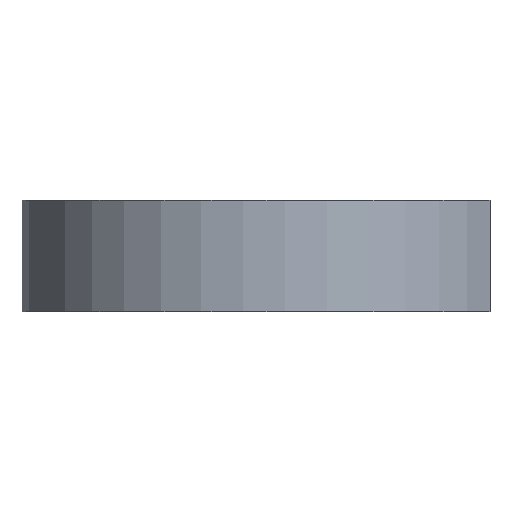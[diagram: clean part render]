
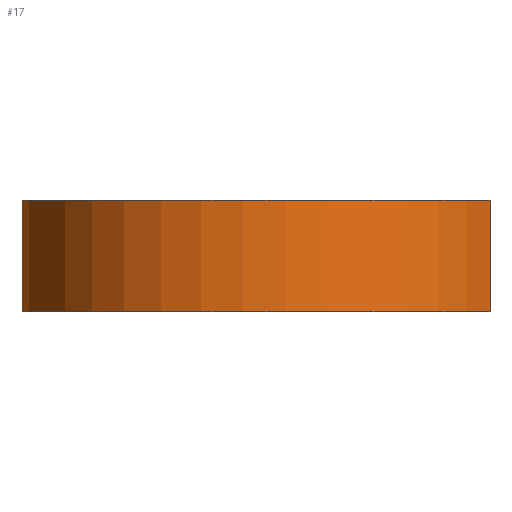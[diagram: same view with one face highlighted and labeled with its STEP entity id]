
A CAD part, front view. The second image highlights one B-rep face of the part: STEP entity #17.
In plain terms, the highlighted cylindrical face has radius 4.45 mm (diameter 8.9 mm), a partial arc.
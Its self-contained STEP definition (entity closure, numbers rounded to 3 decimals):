
#17 = ADVANCED_FACE('',(#18),#33,.T.);
#18 = FACE_BOUND('',#19,.T.);
#19 = EDGE_LOOP('',(#20,#56,#82,#111));
#20 = ORIENTED_EDGE('',*,*,#21,.F.);
#21 = EDGE_CURVE('',#22,#24,#26,.T.);
#22 = VERTEX_POINT('',#23);
#23 = CARTESIAN_POINT('',(3.963,2.024,1.));
#24 = VERTEX_POINT('',#25);
#25 = CARTESIAN_POINT('',(3.963,-2.024,1.));
#26 = SURFACE_CURVE('',#27,(#32,#44),.PCURVE_S1.);
#27 = CIRCLE('',#28,4.45);
#28 = AXIS2_PLACEMENT_3D('',#29,#30,#31);
#29 = CARTESIAN_POINT('',(0.,0.,1.));
#30 = DIRECTION('',(0.,0.,1.));
#31 = DIRECTION('',(1.,0.,-0.));
#32 = PCURVE('',#33,#38);
#33 = CYLINDRICAL_SURFACE('',#34,4.45);
#34 = AXIS2_PLACEMENT_3D('',#35,#36,#37);
#35 = CARTESIAN_POINT('',(0.,0.,-1.));
#36 = DIRECTION('',(0.,0.,1.));
#37 = DIRECTION('',(1.,0.,-0.));
#38 = DEFINITIONAL_REPRESENTATION('',(#39),#43);
#39 = LINE('',#40,#41);
#40 = CARTESIAN_POINT('',(0.,2.));
#41 = VECTOR('',#42,1.);
#42 = DIRECTION('',(1.,0.));
#43 = ( GEOMETRIC_REPRESENTATION_CONTEXT(2) 
PARAMETRIC_REPRESENTATION_CONTEXT() REPRESENTATION_CONTEXT('2D SPACE',''
  ) );
#44 = PCURVE('',#45,#50);
#45 = PLANE('',#46);
#46 = AXIS2_PLACEMENT_3D('',#47,#48,#49);
#47 = CARTESIAN_POINT('',(0.,0.,1.));
#48 = DIRECTION('',(0.,0.,1.));
#49 = DIRECTION('',(1.,0.,-0.));
#50 = DEFINITIONAL_REPRESENTATION('',(#51),#55);
#51 = CIRCLE('',#52,4.45);
#52 = AXIS2_PLACEMENT_2D('',#53,#54);
#53 = CARTESIAN_POINT('',(0.,0.));
#54 = DIRECTION('',(1.,0.));
#55 = ( GEOMETRIC_REPRESENTATION_CONTEXT(2) 
PARAMETRIC_REPRESENTATION_CONTEXT() REPRESENTATION_CONTEXT('2D SPACE',''
  ) );
#56 = ORIENTED_EDGE('',*,*,#57,.F.);
#57 = EDGE_CURVE('',#58,#22,#60,.T.);
#58 = VERTEX_POINT('',#59);
#59 = CARTESIAN_POINT('',(3.963,2.024,-1.));
#60 = SURFACE_CURVE('',#61,(#65,#71),.PCURVE_S1.);
#61 = LINE('',#62,#63);
#62 = CARTESIAN_POINT('',(3.963,2.024,-1.));
#63 = VECTOR('',#64,1.);
#64 = DIRECTION('',(0.,0.,1.));
#65 = PCURVE('',#33,#66);
#66 = DEFINITIONAL_REPRESENTATION('',(#67),#70);
#67 = B_SPLINE_CURVE_WITH_KNOTS('',1,(#68,#69),.UNSPECIFIED.,.F.,.F.,(2,
    2),(0.,2.),.PIECEWISE_BEZIER_KNOTS.);
#68 = CARTESIAN_POINT('',(0.472,0.));
#69 = CARTESIAN_POINT('',(0.472,2.));
#70 = ( GEOMETRIC_REPRESENTATION_CONTEXT(2) 
PARAMETRIC_REPRESENTATION_CONTEXT() REPRESENTATION_CONTEXT('2D SPACE',''
  ) );
#71 = PCURVE('',#72,#77);
#72 = PLANE('',#73);
#73 = AXIS2_PLACEMENT_3D('',#74,#75,#76);
#74 = CARTESIAN_POINT('',(-1.,2.024,-1.02));
#75 = DIRECTION('',(-0.,1.,0.));
#76 = DIRECTION('',(0.,0.,1.));
#77 = DEFINITIONAL_REPRESENTATION('',(#78),#81);
#78 = B_SPLINE_CURVE_WITH_KNOTS('',1,(#79,#80),.UNSPECIFIED.,.F.,.F.,(2,
    2),(0.,2.),.PIECEWISE_BEZIER_KNOTS.);
#79 = CARTESIAN_POINT('',(0.02,4.963));
#80 = CARTESIAN_POINT('',(2.02,4.963));
#81 = ( GEOMETRIC_REPRESENTATION_CONTEXT(2) 
PARAMETRIC_REPRESENTATION_CONTEXT() REPRESENTATION_CONTEXT('2D SPACE',''
  ) );
#82 = ORIENTED_EDGE('',*,*,#83,.T.);
#83 = EDGE_CURVE('',#58,#84,#86,.T.);
#84 = VERTEX_POINT('',#85);
#85 = CARTESIAN_POINT('',(3.963,-2.024,-1.));
#86 = SURFACE_CURVE('',#87,(#92,#99),.PCURVE_S1.);
#87 = CIRCLE('',#88,4.45);
#88 = AXIS2_PLACEMENT_3D('',#89,#90,#91);
#89 = CARTESIAN_POINT('',(0.,0.,-1.));
#90 = DIRECTION('',(0.,0.,1.));
#91 = DIRECTION('',(1.,0.,-0.));
#92 = PCURVE('',#33,#93);
#93 = DEFINITIONAL_REPRESENTATION('',(#94),#98);
#94 = LINE('',#95,#96);
#95 = CARTESIAN_POINT('',(0.,0.));
#96 = VECTOR('',#97,1.);
#97 = DIRECTION('',(1.,0.));
#98 = ( GEOMETRIC_REPRESENTATION_CONTEXT(2) 
PARAMETRIC_REPRESENTATION_CONTEXT() REPRESENTATION_CONTEXT('2D SPACE',''
  ) );
#99 = PCURVE('',#100,#105);
#100 = PLANE('',#101);
#101 = AXIS2_PLACEMENT_3D('',#102,#103,#104);
#102 = CARTESIAN_POINT('',(0.,0.,-1.));
#103 = DIRECTION('',(0.,0.,1.));
#104 = DIRECTION('',(1.,0.,-0.));
#105 = DEFINITIONAL_REPRESENTATION('',(#106),#110);
#106 = CIRCLE('',#107,4.45);
#107 = AXIS2_PLACEMENT_2D('',#108,#109);
#108 = CARTESIAN_POINT('',(0.,0.));
#109 = DIRECTION('',(1.,0.));
#110 = ( GEOMETRIC_REPRESENTATION_CONTEXT(2) 
PARAMETRIC_REPRESENTATION_CONTEXT() REPRESENTATION_CONTEXT('2D SPACE',''
  ) );
#111 = ORIENTED_EDGE('',*,*,#112,.T.);
#112 = EDGE_CURVE('',#84,#24,#113,.T.);
#113 = SURFACE_CURVE('',#114,(#118,#124),.PCURVE_S1.);
#114 = LINE('',#115,#116);
#115 = CARTESIAN_POINT('',(3.963,-2.024,-1.));
#116 = VECTOR('',#117,1.);
#117 = DIRECTION('',(0.,0.,1.));
#118 = PCURVE('',#33,#119);
#119 = DEFINITIONAL_REPRESENTATION('',(#120),#123);
#120 = B_SPLINE_CURVE_WITH_KNOTS('',1,(#121,#122),.UNSPECIFIED.,.F.,.F.,
  (2,2),(0.,2.),.PIECEWISE_BEZIER_KNOTS.);
#121 = CARTESIAN_POINT('',(5.811,0.));
#122 = CARTESIAN_POINT('',(5.811,2.));
#123 = ( GEOMETRIC_REPRESENTATION_CONTEXT(2) 
PARAMETRIC_REPRESENTATION_CONTEXT() REPRESENTATION_CONTEXT('2D SPACE',''
  ) );
#124 = PCURVE('',#125,#130);
#125 = PLANE('',#126);
#126 = AXIS2_PLACEMENT_3D('',#127,#128,#129);
#127 = CARTESIAN_POINT('',(-1.,-2.024,-1.02));
#128 = DIRECTION('',(-0.,1.,0.));
#129 = DIRECTION('',(0.,0.,1.));
#130 = DEFINITIONAL_REPRESENTATION('',(#131),#134);
#131 = B_SPLINE_CURVE_WITH_KNOTS('',1,(#132,#133),.UNSPECIFIED.,.F.,.F.,
  (2,2),(0.,2.),.PIECEWISE_BEZIER_KNOTS.);
#132 = CARTESIAN_POINT('',(0.02,4.963));
#133 = CARTESIAN_POINT('',(2.02,4.963));
#134 = ( GEOMETRIC_REPRESENTATION_CONTEXT(2) 
PARAMETRIC_REPRESENTATION_CONTEXT() REPRESENTATION_CONTEXT('2D SPACE',''
  ) );
